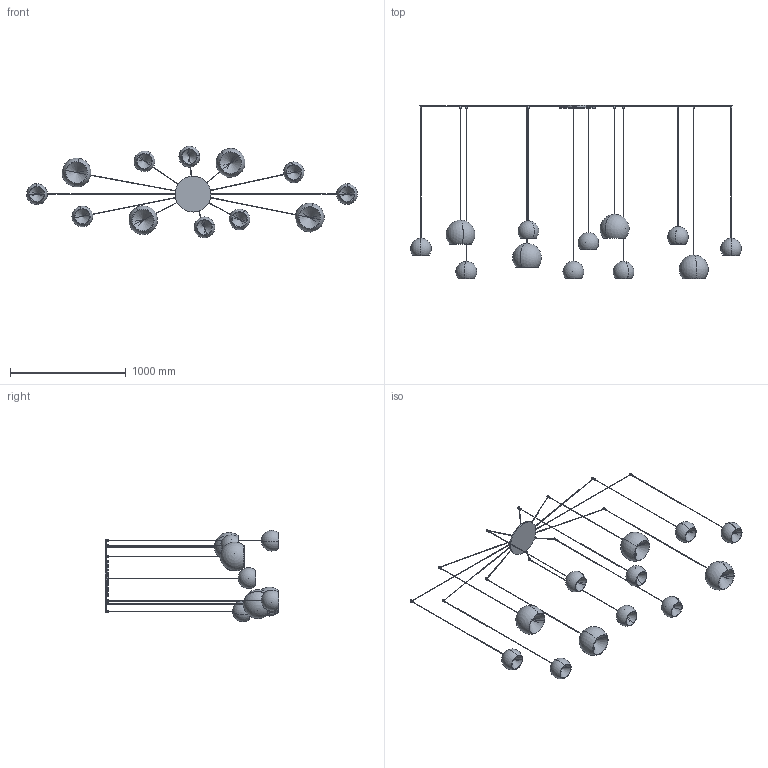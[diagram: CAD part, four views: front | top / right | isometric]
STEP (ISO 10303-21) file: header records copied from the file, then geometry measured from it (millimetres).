
FILE_DESCRIPTION (( 'STEP AP203' ), '1' );
FILE_NAME ('CRMA3-00-CHERRY MIX_12 sospensione.STEP', '2025-05-06T07:36:35', ( '' ), ( '' ), 'SwSTEP 2.0', 'SolidWorks 2022', '' );
FILE_SCHEMA (( 'CONFIG_CONTROL_DESIGN' ));
Length unit declared in the file: millimetre
Products named in the file (11): CHERRY_Lampada singola_Cherry 180 | H=1850; CHERRY_Lampada singola_Cherry 180 | H=1500; CHERRY_Rosone_Cherry 12 (x 4600)<A macchina>; CHERRY_Lampada singola_Cherry 250 | H=1800; CRMA3-00-CHERRY MIX_12 sospensione; CHERRY_Lampada singola_Cherry 250 | H=1500; CHERRY_Lampada singola_Cherry 180 | H=1700; CHERRY_Lampada singola_Cherry 180 | H=1800; CHERRY_Lampada singola_Cherry 250 | H=1850; CHERRY_Lampada singola_Cherry 250 | H=1600; CHERRY_Lampada singola_Cherry 180 | H=1750
Assembly tree (13 placements, depth 2):
  CRMA3-00-CHERRY MIX_12 sospensione
    CHERRY_Rosone_Cherry 12 (x 4600)<A macchina>
    CHERRY_Lampada singola_Cherry 180 | H=1700  x2
    CHERRY_Lampada singola_Cherry 250 | H=1800
    CHERRY_Lampada singola_Cherry 180 | H=1850
    CHERRY_Lampada singola_Cherry 180 | H=1500  x3
    CHERRY_Lampada singola_Cherry 250 | H=1850
    CHERRY_Lampada singola_Cherry 180 | H=1800
    CHERRY_Lampada singola_Cherry 250 | H=1500
    CHERRY_Lampada singola_Cherry 180 | H=1750
    CHERRY_Lampada singola_Cherry 250 | H=1600
Bounding box: 2861 x 1500 x 790.04 mm (x, y, z)
Volume: 4457521.8 mm3; surface area: 3758438.7 mm2
Topology: 61 solids, 61 shells, 449 faces, 1070 edges, 672 vertices
Faces by surface type: cylinder 206, plane 147, sphere 48, cone 48
Entity records: 11017 total; most frequent: CARTESIAN_POINT 2339, DIRECTION 1712, ORIENTED_EDGE 1408, AXIS2_PLACEMENT_3D 761, EDGE_CURVE 704, VERTEX_POINT 468, CIRCLE 392, EDGE_LOOP 390
